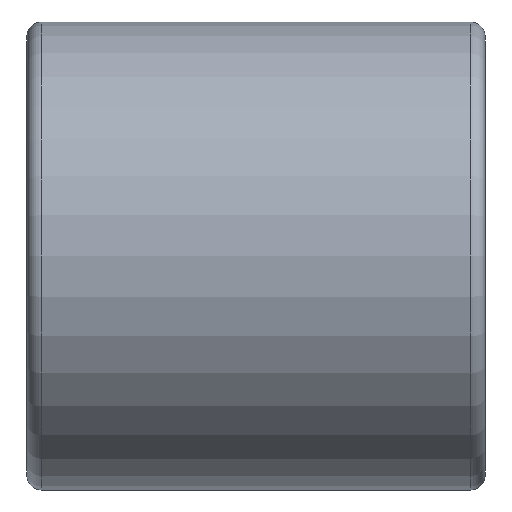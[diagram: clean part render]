
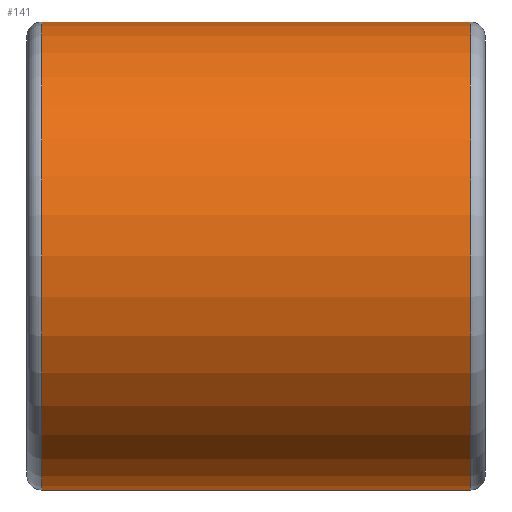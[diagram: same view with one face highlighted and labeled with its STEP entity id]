
A CAD part, front view. The second image highlights one B-rep face of the part: STEP entity #141.
In plain terms, the highlighted cylindrical face has radius 24 mm (diameter 48 mm), a full revolution.
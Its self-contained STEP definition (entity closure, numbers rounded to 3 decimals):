
#15=LINE('',#269,#17);
#17=VECTOR('',#224,24.);
#19=CYLINDRICAL_SURFACE('',#179,24.);
#28=FACE_OUTER_BOUND('',#37,.T.);
#37=EDGE_LOOP('',(#106,#107,#108,#109,#110,#111));
#49=CIRCLE('',#176,24.);
#50=CIRCLE('',#177,24.);
#52=CIRCLE('',#180,24.);
#53=CIRCLE('',#181,24.);
#64=VERTEX_POINT('',#260);
#65=VERTEX_POINT('',#261);
#66=VERTEX_POINT('',#266);
#67=VERTEX_POINT('',#267);
#78=EDGE_CURVE('',#64,#65,#49,.T.);
#79=EDGE_CURVE('',#65,#64,#50,.T.);
#81=EDGE_CURVE('',#66,#67,#52,.T.);
#82=EDGE_CURVE('',#66,#65,#15,.T.);
#83=EDGE_CURVE('',#67,#66,#53,.T.);
#106=ORIENTED_EDGE('',*,*,#81,.F.);
#107=ORIENTED_EDGE('',*,*,#82,.T.);
#108=ORIENTED_EDGE('',*,*,#78,.F.);
#109=ORIENTED_EDGE('',*,*,#79,.F.);
#110=ORIENTED_EDGE('',*,*,#82,.F.);
#111=ORIENTED_EDGE('',*,*,#83,.F.);
#141=ADVANCED_FACE('',(#28),#19,.T.);
#176=AXIS2_PLACEMENT_3D('',#262,#214,#215);
#177=AXIS2_PLACEMENT_3D('',#263,#216,#217);
#179=AXIS2_PLACEMENT_3D('',#265,#220,#221);
#180=AXIS2_PLACEMENT_3D('',#268,#222,#223);
#181=AXIS2_PLACEMENT_3D('',#270,#225,#226);
#214=DIRECTION('center_axis',(-1.,0.,0.));
#215=DIRECTION('ref_axis',(0.,-1.,0.));
#216=DIRECTION('center_axis',(-1.,0.,0.));
#217=DIRECTION('ref_axis',(0.,-1.,0.));
#220=DIRECTION('center_axis',(1.,0.,0.));
#221=DIRECTION('ref_axis',(0.,1.,0.));
#222=DIRECTION('center_axis',(1.,0.,0.));
#223=DIRECTION('ref_axis',(0.,-1.,0.));
#224=DIRECTION('',(-1.,0.,0.));
#225=DIRECTION('center_axis',(1.,0.,0.));
#226=DIRECTION('ref_axis',(0.,-1.,0.));
#260=CARTESIAN_POINT('',(1.5,0.,24.));
#261=CARTESIAN_POINT('',(1.5,-24.,0.));
#262=CARTESIAN_POINT('Origin',(1.5,0.,0.));
#263=CARTESIAN_POINT('Origin',(1.5,0.,0.));
#265=CARTESIAN_POINT('Origin',(23.5,0.,0.));
#266=CARTESIAN_POINT('',(45.5,-24.,0.));
#267=CARTESIAN_POINT('',(45.5,0.,24.));
#268=CARTESIAN_POINT('Origin',(45.5,0.,0.));
#269=CARTESIAN_POINT('',(23.5,-24.,0.));
#270=CARTESIAN_POINT('Origin',(45.5,0.,0.));
